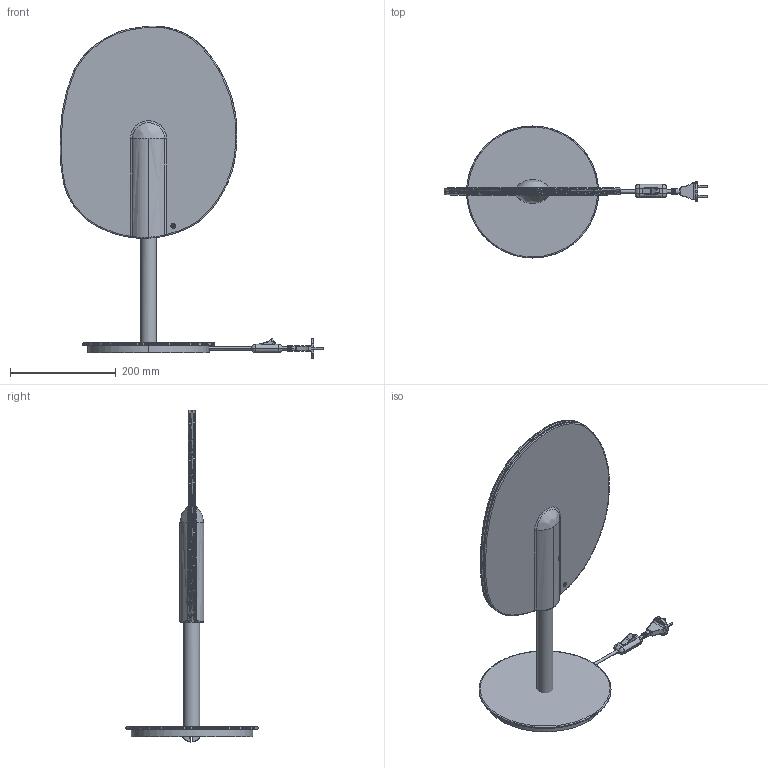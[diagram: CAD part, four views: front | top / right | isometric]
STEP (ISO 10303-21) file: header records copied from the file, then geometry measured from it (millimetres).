
FILE_DESCRIPTION(/* description */ (''),/* implementation_level */ '2;1');
FILE_NAME(/* name */ 'Lollipop Table lamp BF',/* time_stamp */ '2019-01-25T12:14:00+01:00',/* author */ (''),/* organization */ (''),/* preprocessor_version */ 'ST-DEVELOPER v15',/* originating_system */ '',/* authorisation */ '');
FILE_SCHEMA (('AUTOMOTIVE_DESIGN'));
Length unit declared in the file: millimetre
Products named in the file (1): Document
Bounding box: 499.58 x 250 x 628.66 mm (x, y, z)
Volume: 2342903.3 mm3; surface area: 742380.8 mm2
Topology: 8 solids, 8 shells, 701 faces, 1825 edges, 1079 vertices
Faces by surface type: bspline 701
Entity records: 53755 total; most frequent: CARTESIAN_POINT 31633, B_SPLINE_CURVE_WITH_KNOTS 4445, ORIENTED_EDGE 3496, PCURVE 3496, DEFINITIONAL_REPRESENTATION 3496, SURFACE_CURVE 1748, EDGE_CURVE 1748, VERTEX_POINT 1079
